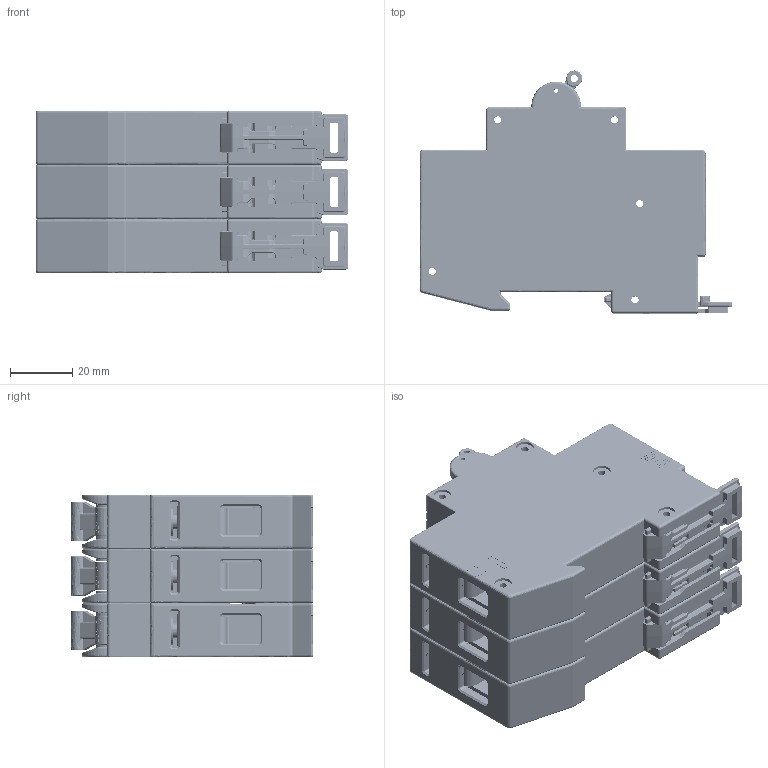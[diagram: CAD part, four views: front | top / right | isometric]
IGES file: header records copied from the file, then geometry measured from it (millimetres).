
Global section: file name: No Iges File Name specified; native system: Autodesk Inventor 2011; preprocessor: AutoDesk Inventor Iges Exporter R2011; author: oey; date: 20110218.131504; units: inch
Bounding box: 100.66 x 78.17 x 52.43 mm (x, y, z)
Surface area: 102295.5 mm2 (no closed solid volume)
Topology: 0 solids, 0 shells, 6062 faces, 40020 edges, 39974 vertices
Faces by surface type: plane 3394, revolution 2347, bspline 321
